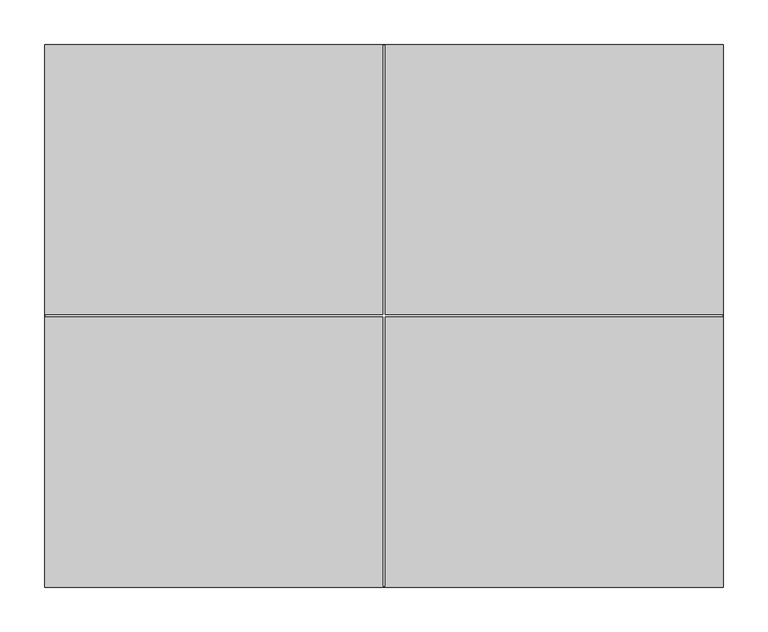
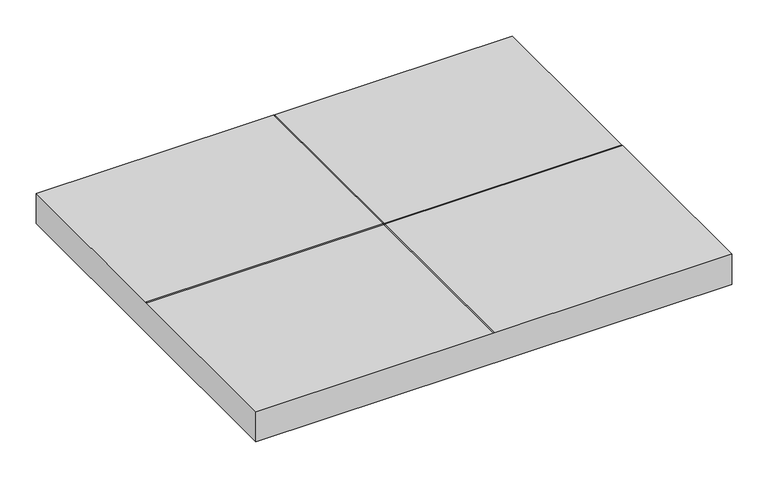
"""IFC4 building model written with IfcOpenShell, lengths in millimetres: furniture geometry, Steelcase - Universal Storage - Cushion Top - for Lateral File : Flush Steel Front - 24D x 30W."""

from ifc_helpers import new_model, si_unit, frame, origin, place, context, project, spatial, polyline, outline, extrude, source, transform, mapped, element, save


def furniture_79d75e53(model_context):
    return source(origin(), model_context, "Body", "SweptSolid", [
        extrude(outline(polyline([(762.0, 0.0), (762.0, -609.6), (0.0, -609.6), (0.0, 0.0), (762.0, 0.0)]), holes=[polyline([(0.889, -303.911), (0.889, -305.689), (380.111, -305.689), (380.111, -608.7110015), (381.889, -608.7110015), (381.889, -305.689), (761.1109651, -305.689), (761.1109651, -303.911), (381.889, -303.911), (381.889, -0.889), (380.111, -0.889), (380.111, -303.911), (0.889, -303.911)])]), frame((0.0, 0.0, 533.4), z_axis=(0.0, 0.0, 1.0), x_axis=(1.0, 0.0, 0.0)), (0.0, 0.0, 1.0), 50.7999971),
    ])


if __name__ == "__main__":
    model = new_model("IFC4")
    model_context = context("Model", 3, world=origin())
    ifc_project = project(units=[si_unit("LENGTHUNIT", "METRE", prefix="MILLI")], contexts=[model_context])
    site = spatial("IfcSite", under=ifc_project)
    building = spatial("IfcBuilding", under=site)
    placement = place(None, origin())
    furniture_shape = furniture_79d75e53(model_context)
    element("IfcFurniture", 1, ObjectType="Steelcase - Universal Storage - Cushion Top - for Lateral File : Flush Steel Front - 24D x 30W", at=placement, inside=building, context=model_context, shape_type="MappedRepresentation", body=[
        mapped(furniture_shape, transform((0.0, 0.0, 0.0), x_axis=(1.0, 0.0, 0.0), y_axis=(0.0, 1.0, 0.0), z_axis=(0.0, 0.0, 1.0))),
    ])
    save(model, "model.ifc")
